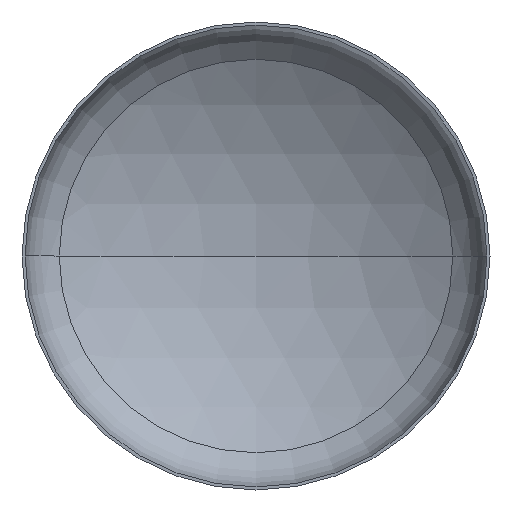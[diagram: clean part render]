
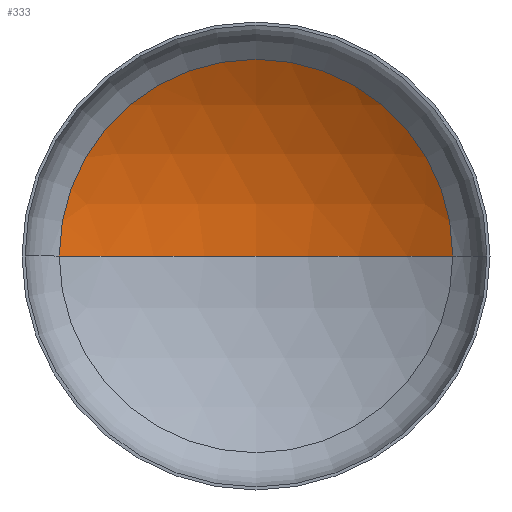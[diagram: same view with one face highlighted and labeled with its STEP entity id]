
A CAD part, front view. The second image highlights one B-rep face of the part: STEP entity #333.
In plain terms, the highlighted spherical face has radius 4800 mm.
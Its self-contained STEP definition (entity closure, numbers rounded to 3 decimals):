
#2 = DIRECTION ( 'NONE',  ( 0., 0., -1. ) ) ;
#7 = DIRECTION ( 'NONE',  ( 1., 0., 0. ) ) ;
#17 = CARTESIAN_POINT ( 'NONE',  ( 0., -3177.018, 0. ) ) ;
#32 = VERTEX_POINT ( 'NONE', #247 ) ;
#41 = ORIENTED_EDGE ( 'NONE', *, *, #161, .T. ) ;
#44 = VERTEX_POINT ( 'NONE', #280 ) ;
#52 = AXIS2_PLACEMENT_3D ( 'NONE', #250, #273, #7 ) ;
#61 = AXIS2_PLACEMENT_3D ( 'NONE', #17, #2, #312 ) ;
#64 = AXIS2_PLACEMENT_3D ( 'NONE', #194, #189, #336 ) ;
#74 = ORIENTED_EDGE ( 'NONE', *, *, #166, .T. ) ;
#80 = VERTEX_POINT ( 'NONE', #222 ) ;
#86 = EDGE_LOOP ( 'NONE', ( #271, #74, #41 ) ) ;
#147 = DIRECTION ( 'NONE',  ( 0., 0., -1. ) ) ;
#148 = CARTESIAN_POINT ( 'NONE',  ( 0., -3177.018, 0. ) ) ;
#161 = EDGE_CURVE ( 'NONE', #32, #44, #178, .T. ) ;
#166 = EDGE_CURVE ( 'NONE', #80, #32, #255, .T. ) ;
#167 = EDGE_CURVE ( 'NONE', #80, #44, #357, .T. ) ;
#178 = CIRCLE ( 'NONE', #64, 2522.013 ) ;
#189 = DIRECTION ( 'NONE',  ( 0., -1., 0. ) ) ;
#194 = CARTESIAN_POINT ( 'NONE',  ( 0., 907.03, 0. ) ) ;
#196 = DIRECTION ( 'NONE',  ( -1., 0., 0. ) ) ;
#217 = FACE_OUTER_BOUND ( 'NONE', #86, .T. ) ;
#222 = CARTESIAN_POINT ( 'NONE',  ( 0., 1622.982, 0. ) ) ;
#247 = CARTESIAN_POINT ( 'NONE',  ( 2522.013, 907.03, 0. ) ) ;
#250 = CARTESIAN_POINT ( 'NONE',  ( 0., -3177.018, 0. ) ) ;
#255 = CIRCLE ( 'NONE', #61, 4800. ) ;
#271 = ORIENTED_EDGE ( 'NONE', *, *, #167, .F. ) ;
#273 = DIRECTION ( 'NONE',  ( 0., 0., 1. ) ) ;
#280 = CARTESIAN_POINT ( 'NONE',  ( -2522.013, 907.03, 0. ) ) ;
#312 = DIRECTION ( 'NONE',  ( -1., 0., 0. ) ) ;
#333 = ADVANCED_FACE ( 'NONE', ( #217 ), #387, .F. ) ;
#335 = AXIS2_PLACEMENT_3D ( 'NONE', #148, #147, #196 ) ;
#336 = DIRECTION ( 'NONE',  ( 1., 0., 0. ) ) ;
#357 = CIRCLE ( 'NONE', #52, 4800. ) ;
#387 = SPHERICAL_SURFACE ( 'NONE', #335, 4800. ) ;
